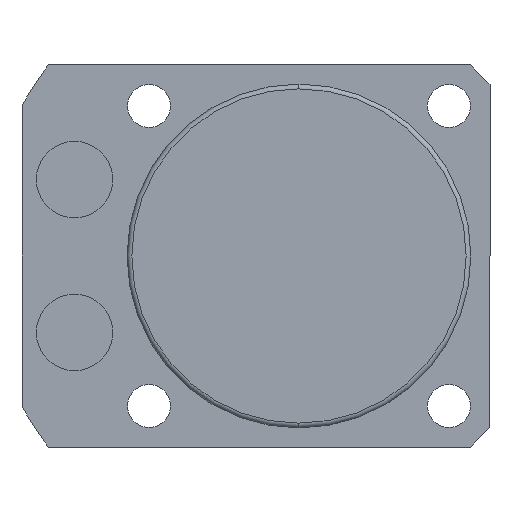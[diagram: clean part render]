
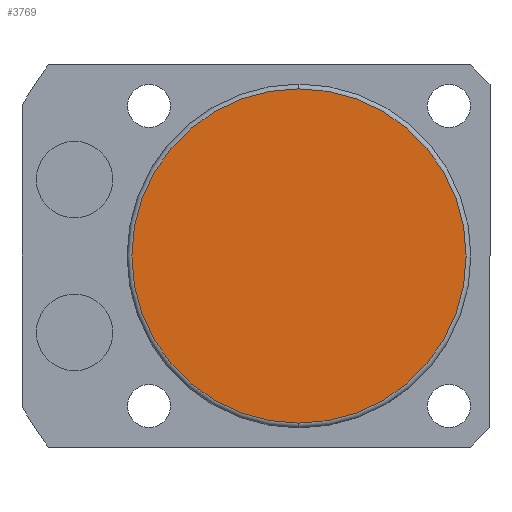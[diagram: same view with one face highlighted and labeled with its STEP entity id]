
A CAD part, front view. The second image highlights one B-rep face of the part: STEP entity #3769.
In plain terms, the highlighted planar face has unit normal (0, -1, 0).
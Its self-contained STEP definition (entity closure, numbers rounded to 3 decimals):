
#130 = CARTESIAN_POINT ( 'NONE',  ( 0., -100.5, 17.5 ) ) ;
#245 = ORIENTED_EDGE ( 'NONE', *, *, #986, .T. ) ;
#575 = FACE_OUTER_BOUND ( 'NONE', #3737, .T. ) ;
#771 = VERTEX_POINT ( 'NONE', #130 ) ;
#986 = EDGE_CURVE ( 'NONE', #771, #3586, #1711, .T. ) ;
#1711 = CIRCLE ( 'NONE', #3493, 17.5 ) ;
#1800 = DIRECTION ( 'NONE',  ( 0., -1., 0. ) ) ;
#1944 = CARTESIAN_POINT ( 'NONE',  ( 0., -100.5, 0. ) ) ;
#2515 = DIRECTION ( 'NONE',  ( 0., -1., 0. ) ) ;
#2683 = DIRECTION ( 'NONE',  ( 0., 0., -1. ) ) ;
#3342 = CARTESIAN_POINT ( 'NONE',  ( 0., -100.5, 0. ) ) ;
#3493 = AXIS2_PLACEMENT_3D ( 'NONE', #1944, #3864, #2683 ) ;
#3570 = CARTESIAN_POINT ( 'NONE',  ( 0., -100.5, -17.5 ) ) ;
#3583 = EDGE_CURVE ( 'NONE', #3586, #771, #3724, .T. ) ;
#3586 = VERTEX_POINT ( 'NONE', #3570 ) ;
#3587 = AXIS2_PLACEMENT_3D ( 'NONE', #4846, #2515, #4433 ) ;
#3724 = CIRCLE ( 'NONE', #3587, 17.5 ) ;
#3737 = EDGE_LOOP ( 'NONE', ( #4629, #245 ) ) ;
#3757 = DIRECTION ( 'NONE',  ( 0., 0., -1. ) ) ;
#3769 = ADVANCED_FACE ( 'NONE', ( #575 ), #4110, .T. ) ;
#3864 = DIRECTION ( 'NONE',  ( 0., -1., 0. ) ) ;
#4008 = AXIS2_PLACEMENT_3D ( 'NONE', #3342, #1800, #3757 ) ;
#4110 = PLANE ( 'NONE',  #4008 ) ;
#4433 = DIRECTION ( 'NONE',  ( 0., 0., -1. ) ) ;
#4629 = ORIENTED_EDGE ( 'NONE', *, *, #3583, .T. ) ;
#4846 = CARTESIAN_POINT ( 'NONE',  ( 0., -100.5, 0. ) ) ;
